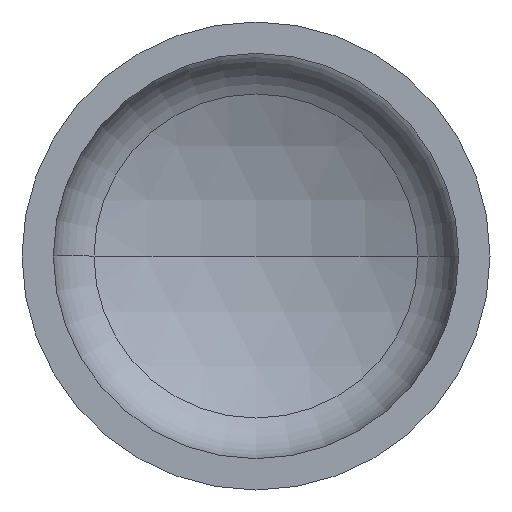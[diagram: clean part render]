
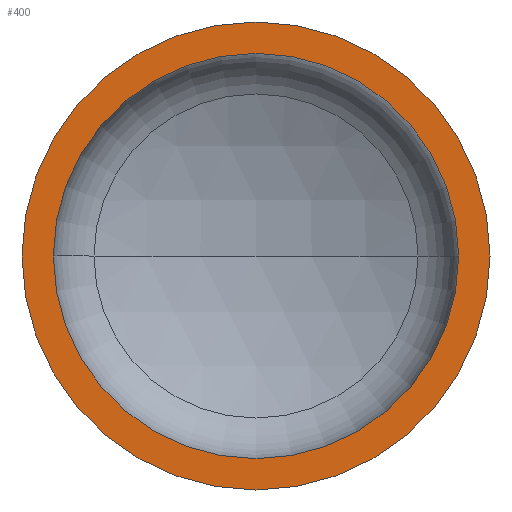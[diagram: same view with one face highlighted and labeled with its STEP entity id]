
A CAD part, front view. The second image highlights one B-rep face of the part: STEP entity #400.
In plain terms, the highlighted planar face has unit normal (0, -1, 0).
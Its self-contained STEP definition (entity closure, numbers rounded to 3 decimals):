
#8 = AXIS2_PLACEMENT_3D ( 'NONE', #361, #196, #390 ) ;
#14 = AXIS2_PLACEMENT_3D ( 'NONE', #381, #267, #186 ) ;
#30 = ORIENTED_EDGE ( 'NONE', *, *, #369, .T. ) ;
#53 = AXIS2_PLACEMENT_3D ( 'NONE', #351, #283, #269 ) ;
#60 = AXIS2_PLACEMENT_3D ( 'NONE', #322, #320, #316 ) ;
#61 = CIRCLE ( 'NONE', #8, 850. ) ;
#77 = EDGE_CURVE ( 'NONE', #359, #405, #141, .T. ) ;
#79 = EDGE_CURVE ( 'NONE', #93, #162, #293, .T. ) ;
#93 = VERTEX_POINT ( 'NONE', #171 ) ;
#96 = DIRECTION ( 'NONE',  ( 0., 1., 0. ) ) ;
#111 = ORIENTED_EDGE ( 'NONE', *, *, #79, .F. ) ;
#128 = PLANE ( 'NONE',  #366 ) ;
#141 = CIRCLE ( 'NONE', #60, 850. ) ;
#146 = FACE_BOUND ( 'NONE', #147, .T. ) ;
#147 = EDGE_LOOP ( 'NONE', ( #111, #240 ) ) ;
#162 = VERTEX_POINT ( 'NONE', #218 ) ;
#165 = CIRCLE ( 'NONE', #14, 736. ) ;
#171 = CARTESIAN_POINT ( 'NONE',  ( 736., 0., 0. ) ) ;
#186 = DIRECTION ( 'NONE',  ( 1., 0., 0. ) ) ;
#196 = DIRECTION ( 'NONE',  ( 0., -1., 0. ) ) ;
#217 = CARTESIAN_POINT ( 'NONE',  ( 850., 0., 0. ) ) ;
#218 = CARTESIAN_POINT ( 'NONE',  ( -736., 0., 0. ) ) ;
#227 = FACE_OUTER_BOUND ( 'NONE', #324, .T. ) ;
#240 = ORIENTED_EDGE ( 'NONE', *, *, #336, .F. ) ;
#247 = CARTESIAN_POINT ( 'NONE',  ( -850., 0., 0. ) ) ;
#267 = DIRECTION ( 'NONE',  ( 0., -1., 0. ) ) ;
#269 = DIRECTION ( 'NONE',  ( 1., 0., 0. ) ) ;
#275 = CARTESIAN_POINT ( 'NONE',  ( -850., 0., 0. ) ) ;
#283 = DIRECTION ( 'NONE',  ( 0., -1., 0. ) ) ;
#293 = CIRCLE ( 'NONE', #53, 736. ) ;
#303 = DIRECTION ( 'NONE',  ( -1., 0., 0. ) ) ;
#316 = DIRECTION ( 'NONE',  ( 1., 0., 0. ) ) ;
#320 = DIRECTION ( 'NONE',  ( 0., -1., 0. ) ) ;
#322 = CARTESIAN_POINT ( 'NONE',  ( 0., 0., 0. ) ) ;
#324 = EDGE_LOOP ( 'NONE', ( #30, #330 ) ) ;
#330 = ORIENTED_EDGE ( 'NONE', *, *, #77, .T. ) ;
#336 = EDGE_CURVE ( 'NONE', #162, #93, #165, .T. ) ;
#351 = CARTESIAN_POINT ( 'NONE',  ( 0., 0., 0. ) ) ;
#359 = VERTEX_POINT ( 'NONE', #275 ) ;
#361 = CARTESIAN_POINT ( 'NONE',  ( 0., 0., 0. ) ) ;
#366 = AXIS2_PLACEMENT_3D ( 'NONE', #247, #96, #303 ) ;
#369 = EDGE_CURVE ( 'NONE', #405, #359, #61, .T. ) ;
#381 = CARTESIAN_POINT ( 'NONE',  ( 0., 0., 0. ) ) ;
#390 = DIRECTION ( 'NONE',  ( 1., 0., 0. ) ) ;
#400 = ADVANCED_FACE ( 'NONE', ( #146, #227 ), #128, .F. ) ;
#405 = VERTEX_POINT ( 'NONE', #217 ) ;
